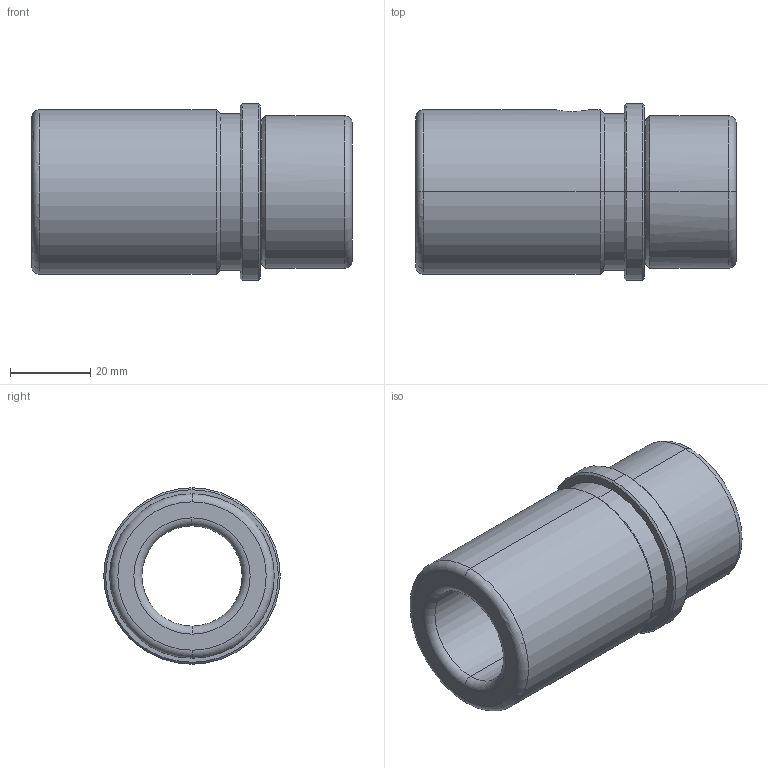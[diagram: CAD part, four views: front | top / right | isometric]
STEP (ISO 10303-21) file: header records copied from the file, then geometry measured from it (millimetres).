
FILE_DESCRIPTION(('CATIA V5 STEP Exchange'),'2;1');
FILE_NAME('C:\Users\Utente\Desktop\IO LAVORO\3D X SITO CF\X SITO\CF 655\CF 655 25 x 80.stp','2020-12-26T14:11:55+00:00',('none'),('none'),'CATIA Version 5 Release 20 GA (IN-10)','CATIA V5 STEP AP203','none');
FILE_SCHEMA(('CONFIG_CONTROL_DESIGN'));
Length unit declared in the file: millimetre
Products named in the file (1): CF 655 25 x 80
Bounding box: 80 x 44 x 44 mm (x, y, z)
Volume: 61217 mm3; surface area: 18617.5 mm2
Topology: 1 solids, 1 shells, 37 faces, 126 edges, 94 vertices
Faces by surface type: cylinder 14, cone 10, torus 8, plane 5
Entity records: 1642 total; most frequent: CARTESIAN_POINT 514, ORIENTED_EDGE 252, DIRECTION 178, EDGE_CURVE 126, AXIS2_PLACEMENT_3D 118, VERTEX_POINT 94, CIRCLE 80, EDGE_LOOP 44
